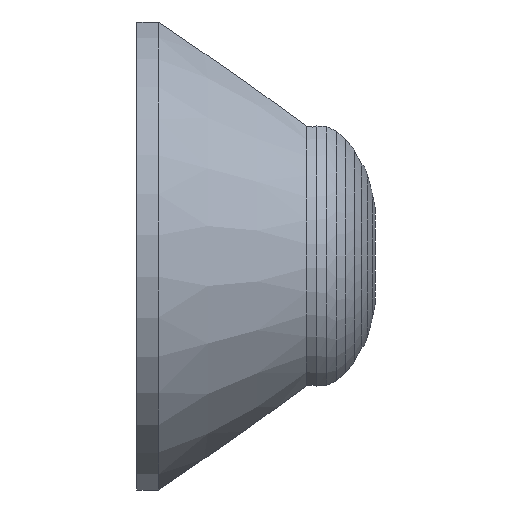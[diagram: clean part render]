
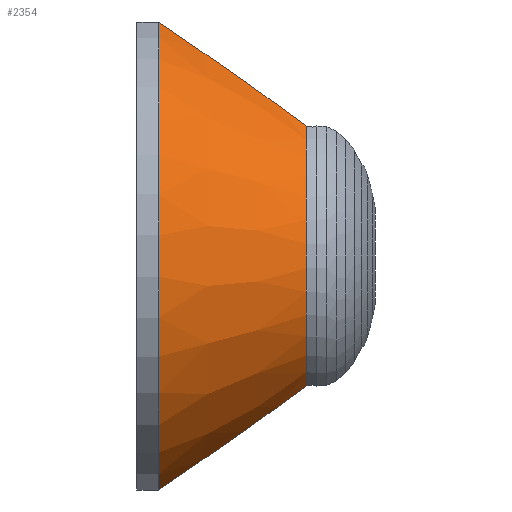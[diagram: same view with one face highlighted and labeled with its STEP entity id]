
A CAD part, front view. The second image highlights one B-rep face of the part: STEP entity #2354.
In plain terms, the highlighted conical face has half-angle 33.036 degrees and reference radius 13.5 mm.
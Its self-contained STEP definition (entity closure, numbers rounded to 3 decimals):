
#128 = PLANE('',#129);
#129 = AXIS2_PLACEMENT_3D('',#130,#131,#132);
#130 = CARTESIAN_POINT('',(445.35,-4.,-5.));
#131 = DIRECTION('',(-0.,1.,-0.));
#132 = DIRECTION('',(-1.,0.,0.));
#156 = CYLINDRICAL_SURFACE('',#157,13.5);
#157 = AXIS2_PLACEMENT_3D('',#158,#159,#160);
#158 = CARTESIAN_POINT('',(446.65,0.,0.));
#159 = DIRECTION('',(1.,0.,0.));
#160 = DIRECTION('',(-0.,1.,0.));
#183 = PLANE('',#184);
#184 = AXIS2_PLACEMENT_3D('',#185,#186,#187);
#185 = CARTESIAN_POINT('',(445.35,-4.,5.));
#186 = DIRECTION('',(0.,1.,0.));
#187 = DIRECTION('',(1.,0.,0.));
#2046 = CONICAL_SURFACE('',#2047,8.2,0.146);
#2047 = AXIS2_PLACEMENT_3D('',#2048,#2049,#2050);
#2048 = CARTESIAN_POINT('',(456.,0.,0.));
#2049 = DIRECTION('',(-1.,-0.,-0.));
#2050 = DIRECTION('',(-0.,1.,0.));
#2219 = VERTEX_POINT('',#2220);
#2220 = CARTESIAN_POINT('',(456.,-4.,7.158));
#2245 = EDGE_CURVE('',#2219,#2246,#2248,.T.);
#2246 = VERTEX_POINT('',#2247);
#2247 = CARTESIAN_POINT('',(456.,-4.,-7.158));
#2248 = SURFACE_CURVE('',#2249,(#2254,#2261),.PCURVE_S1.);
#2249 = CIRCLE('',#2250,8.2);
#2250 = AXIS2_PLACEMENT_3D('',#2251,#2252,#2253);
#2251 = CARTESIAN_POINT('',(456.,0.,0.));
#2252 = DIRECTION('',(1.,0.,0.));
#2253 = DIRECTION('',(-0.,1.,0.));
#2254 = PCURVE('',#2046,#2255);
#2255 = DEFINITIONAL_REPRESENTATION('',(#2256),#2260);
#2256 = LINE('',#2257,#2258);
#2257 = CARTESIAN_POINT('',(-0.,-0.));
#2258 = VECTOR('',#2259,1.);
#2259 = DIRECTION('',(-1.,-0.));
#2260 = ( GEOMETRIC_REPRESENTATION_CONTEXT(2) 
PARAMETRIC_REPRESENTATION_CONTEXT() REPRESENTATION_CONTEXT('2D SPACE',''
  ) );
#2261 = PCURVE('',#2262,#2267);
#2262 = CONICAL_SURFACE('',#2263,13.5,0.577);
#2263 = AXIS2_PLACEMENT_3D('',#2264,#2265,#2266);
#2264 = CARTESIAN_POINT('',(447.85,0.,0.));
#2265 = DIRECTION('',(-1.,-0.,-0.));
#2266 = DIRECTION('',(-0.,1.,0.));
#2267 = DEFINITIONAL_REPRESENTATION('',(#2268),#2272);
#2268 = LINE('',#2269,#2270);
#2269 = CARTESIAN_POINT('',(-0.,-8.15));
#2270 = VECTOR('',#2271,1.);
#2271 = DIRECTION('',(-1.,-0.));
#2272 = ( GEOMETRIC_REPRESENTATION_CONTEXT(2) 
PARAMETRIC_REPRESENTATION_CONTEXT() REPRESENTATION_CONTEXT('2D SPACE',''
  ) );
#2354 = ADVANCED_FACE('',(#2355),#2262,.T.);
#2355 = FACE_BOUND('',#2356,.T.);
#2356 = EDGE_LOOP('',(#2357,#2385,#2409,#2435));
#2357 = ORIENTED_EDGE('',*,*,#2358,.T.);
#2358 = EDGE_CURVE('',#2219,#2359,#2361,.T.);
#2359 = VERTEX_POINT('',#2360);
#2360 = CARTESIAN_POINT('',(447.85,-4.,12.894));
#2361 = SURFACE_CURVE('',#2362,(#2367,#2378),.PCURVE_S1.);
#2362 = HYPERBOLA('',#2363,6.151,4.);
#2363 = AXIS2_PLACEMENT_3D('',#2364,#2365,#2366);
#2364 = CARTESIAN_POINT('',(468.609,-4.,0.));
#2365 = DIRECTION('',(0.,1.,0.));
#2366 = DIRECTION('',(-1.,0.,0.));
#2367 = PCURVE('',#2262,#2368);
#2368 = DEFINITIONAL_REPRESENTATION('',(#2369),#2377);
#2369 = B_SPLINE_CURVE_WITH_KNOTS('',6,(#2370,#2371,#2372,#2373,#2374,
    #2375,#2376),.UNSPECIFIED.,.F.,.F.,(7,7),(1.345,
    1.887),.PIECEWISE_BEZIER_KNOTS.);
#2370 = CARTESIAN_POINT('',(-2.08,-8.15));
#2371 = CARTESIAN_POINT('',(-2.036,-7.157));
#2372 = CARTESIAN_POINT('',(-1.996,-6.04));
#2373 = CARTESIAN_POINT('',(-1.96,-4.786));
#2374 = CARTESIAN_POINT('',(-1.928,-3.376));
#2375 = CARTESIAN_POINT('',(-1.898,-1.789));
#2376 = CARTESIAN_POINT('',(-1.872,0.));
#2377 = ( GEOMETRIC_REPRESENTATION_CONTEXT(2) 
PARAMETRIC_REPRESENTATION_CONTEXT() REPRESENTATION_CONTEXT('2D SPACE',''
  ) );
#2378 = PCURVE('',#183,#2379);
#2379 = DEFINITIONAL_REPRESENTATION('',(#2380),#2384);
#2380 = ( BOUNDED_CURVE() B_SPLINE_CURVE(2,(#2381,#2382,#2383),
.UNSPECIFIED.,.F.,.F.) B_SPLINE_CURVE_WITH_KNOTS((3,3),(1.345,
1.887),.PIECEWISE_BEZIER_KNOTS.) CURVE() 
GEOMETRIC_REPRESENTATION_ITEM() RATIONAL_B_SPLINE_CURVE((1.,
1.037,1.)) REPRESENTATION_ITEM('') );
#2381 = CARTESIAN_POINT('',(10.65,-2.158));
#2382 = CARTESIAN_POINT('',(7.741,-4.326));
#2383 = CARTESIAN_POINT('',(2.5,-7.894));
#2384 = ( GEOMETRIC_REPRESENTATION_CONTEXT(2) 
PARAMETRIC_REPRESENTATION_CONTEXT() REPRESENTATION_CONTEXT('2D SPACE',''
  ) );
#2385 = ORIENTED_EDGE('',*,*,#2386,.T.);
#2386 = EDGE_CURVE('',#2359,#2387,#2389,.T.);
#2387 = VERTEX_POINT('',#2388);
#2388 = CARTESIAN_POINT('',(447.85,-4.,-12.894));
#2389 = SURFACE_CURVE('',#2390,(#2395,#2402),.PCURVE_S1.);
#2390 = CIRCLE('',#2391,13.5);
#2391 = AXIS2_PLACEMENT_3D('',#2392,#2393,#2394);
#2392 = CARTESIAN_POINT('',(447.85,0.,0.));
#2393 = DIRECTION('',(1.,0.,0.));
#2394 = DIRECTION('',(-0.,1.,0.));
#2395 = PCURVE('',#2262,#2396);
#2396 = DEFINITIONAL_REPRESENTATION('',(#2397),#2401);
#2397 = LINE('',#2398,#2399);
#2398 = CARTESIAN_POINT('',(-0.,-0.));
#2399 = VECTOR('',#2400,1.);
#2400 = DIRECTION('',(-1.,-0.));
#2401 = ( GEOMETRIC_REPRESENTATION_CONTEXT(2) 
PARAMETRIC_REPRESENTATION_CONTEXT() REPRESENTATION_CONTEXT('2D SPACE',''
  ) );
#2402 = PCURVE('',#156,#2403);
#2403 = DEFINITIONAL_REPRESENTATION('',(#2404),#2408);
#2404 = LINE('',#2405,#2406);
#2405 = CARTESIAN_POINT('',(0.,1.2));
#2406 = VECTOR('',#2407,1.);
#2407 = DIRECTION('',(1.,0.));
#2408 = ( GEOMETRIC_REPRESENTATION_CONTEXT(2) 
PARAMETRIC_REPRESENTATION_CONTEXT() REPRESENTATION_CONTEXT('2D SPACE',''
  ) );
#2409 = ORIENTED_EDGE('',*,*,#2410,.F.);
#2410 = EDGE_CURVE('',#2246,#2387,#2411,.T.);
#2411 = SURFACE_CURVE('',#2412,(#2417,#2428),.PCURVE_S1.);
#2412 = HYPERBOLA('',#2413,6.151,4.);
#2413 = AXIS2_PLACEMENT_3D('',#2414,#2415,#2416);
#2414 = CARTESIAN_POINT('',(468.609,-4.,0.));
#2415 = DIRECTION('',(0.,-1.,0.));
#2416 = DIRECTION('',(-1.,-0.,0.));
#2417 = PCURVE('',#2262,#2418);
#2418 = DEFINITIONAL_REPRESENTATION('',(#2419),#2427);
#2419 = B_SPLINE_CURVE_WITH_KNOTS('',6,(#2420,#2421,#2422,#2423,#2424,
    #2425,#2426),.UNSPECIFIED.,.F.,.F.,(7,7),(1.345,
    1.887),.PIECEWISE_BEZIER_KNOTS.);
#2420 = CARTESIAN_POINT('',(-4.203,-8.15));
#2421 = CARTESIAN_POINT('',(-4.247,-7.157));
#2422 = CARTESIAN_POINT('',(-4.287,-6.04));
#2423 = CARTESIAN_POINT('',(-4.323,-4.786));
#2424 = CARTESIAN_POINT('',(-4.355,-3.376));
#2425 = CARTESIAN_POINT('',(-4.385,-1.789));
#2426 = CARTESIAN_POINT('',(-4.412,0.));
#2427 = ( GEOMETRIC_REPRESENTATION_CONTEXT(2) 
PARAMETRIC_REPRESENTATION_CONTEXT() REPRESENTATION_CONTEXT('2D SPACE',''
  ) );
#2428 = PCURVE('',#128,#2429);
#2429 = DEFINITIONAL_REPRESENTATION('',(#2430),#2434);
#2430 = ( BOUNDED_CURVE() B_SPLINE_CURVE(2,(#2431,#2432,#2433),
.UNSPECIFIED.,.F.,.F.) B_SPLINE_CURVE_WITH_KNOTS((3,3),(1.345,
1.887),.PIECEWISE_BEZIER_KNOTS.) CURVE() 
GEOMETRIC_REPRESENTATION_ITEM() RATIONAL_B_SPLINE_CURVE((1.,
1.037,1.)) REPRESENTATION_ITEM('') );
#2431 = CARTESIAN_POINT('',(-10.65,-2.158));
#2432 = CARTESIAN_POINT('',(-7.741,-4.326));
#2433 = CARTESIAN_POINT('',(-2.5,-7.894));
#2434 = ( GEOMETRIC_REPRESENTATION_CONTEXT(2) 
PARAMETRIC_REPRESENTATION_CONTEXT() REPRESENTATION_CONTEXT('2D SPACE',''
  ) );
#2435 = ORIENTED_EDGE('',*,*,#2245,.F.);
